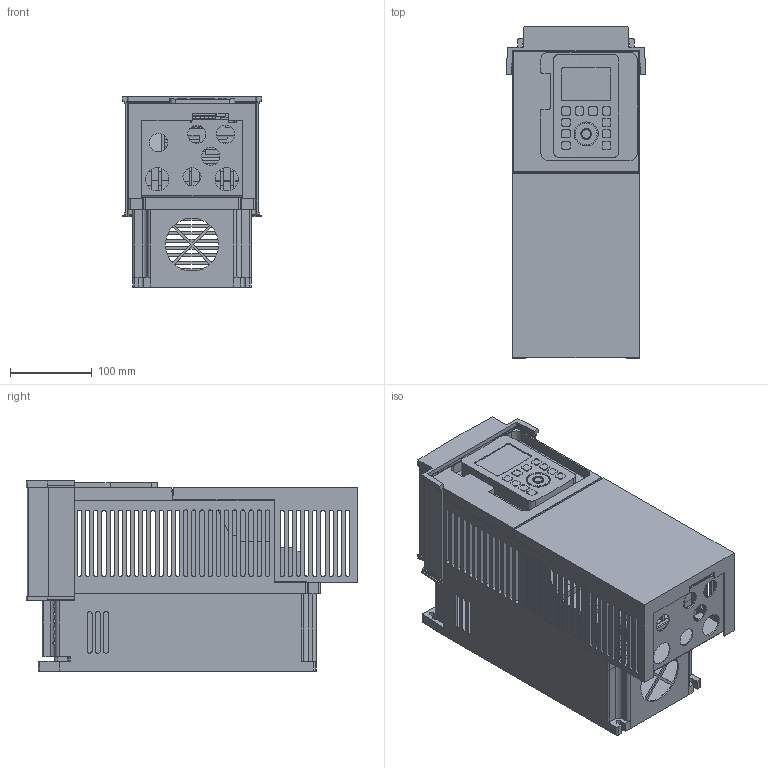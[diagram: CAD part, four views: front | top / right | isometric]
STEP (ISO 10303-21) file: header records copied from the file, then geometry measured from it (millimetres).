
FILE_DESCRIPTION((''),'2;1');
FILE_NAME('VFAS3_SA2_ASM','2016-05-09T',('SESA57331'),('Schneider-Electric'),'PRO/ENGINEER BY PARAMETRIC TECHNOLOGY CORPORATION, 2012420','PRO/ENGINEER BY PARAMETRIC TECHNOLOGY CORPORATION, 2012420','');
FILE_SCHEMA(('CONFIG_CONTROL_DESIGN'));
Length unit declared in the file: millimetre
Products named in the file (11): PRT0001; PRT0002; PRT0003; PRT0004; PRT0005; PRT0006; PRT0007; PRT0008; PRT0009; ASM0003_ASM; VFAS3_SA2_ASM
Assembly tree (10 placements, depth 3):
  VFAS3_SA2_ASM
    PRT0001
    PRT0002
    PRT0003
    PRT0004
    ASM0003_ASM
      PRT0005
      PRT0006
      PRT0007
      PRT0008
      PRT0009
Bounding box: 171.01 x 406.15 x 233 mm (x, y, z)
Volume: 3899766 mm3; surface area: 1016552.6 mm2
Topology: 9 solids, 9 shells, 1457 faces, 4363 edges, 2935 vertices
Faces by surface type: plane 1013, cylinder 332, extrusion 112
Entity records: 55495 total; most frequent: CARTESIAN_POINT 15669, ORIENTED_EDGE 8726, DIRECTION 7447, EDGE_CURVE 4363, VECTOR 3233, LINE 3121, VERTEX_POINT 2935, AXIS2_PLACEMENT_3D 2107
